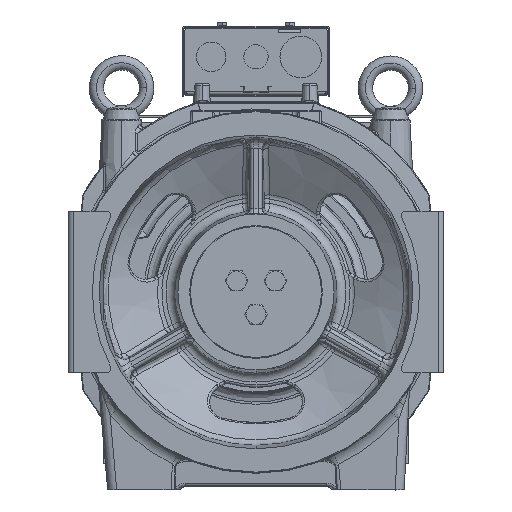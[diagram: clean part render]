
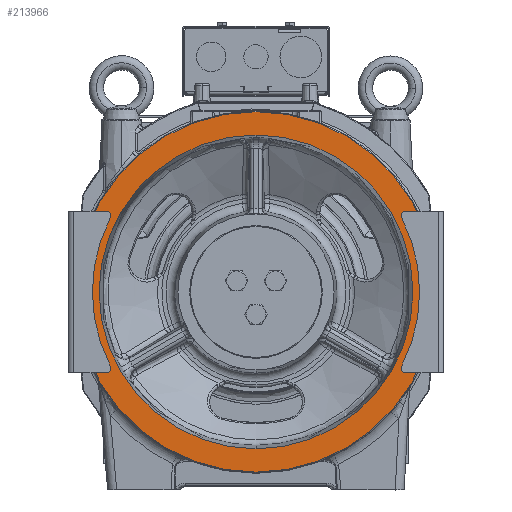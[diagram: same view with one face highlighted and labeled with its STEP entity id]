
A CAD part, top view. The second image highlights one B-rep face of the part: STEP entity #213966.
In plain terms, the highlighted planar face has unit normal (0, 0, 1) as drawn and (0, 1, 0) by its records, which use the part's own axes.
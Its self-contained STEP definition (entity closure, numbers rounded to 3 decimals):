
#194326=CARTESIAN_POINT('',(0.,86.,0.));
#194327=DIRECTION('',(0.,-1.,0.));
#194328=DIRECTION('',(0.,0.,1.));
#194329=AXIS2_PLACEMENT_3D('',#194326,#194327,#194328);
#194331=CARTESIAN_POINT('',(0.,86.,0.));
#194332=DIRECTION('',(0.,-1.,0.));
#194333=DIRECTION('',(0.,0.,-1.));
#194334=AXIS2_PLACEMENT_3D('',#194331,#194332,#194333);
#194336=CARTESIAN_POINT('',(0.,86.,0.));
#194337=DIRECTION('',(0.,1.,0.));
#194338=DIRECTION('',(0.,0.,1.));
#194339=AXIS2_PLACEMENT_3D('',#194336,#194337,#194338);
#194341=CARTESIAN_POINT('',(0.,86.,0.));
#194342=DIRECTION('',(0.,1.,0.));
#194343=DIRECTION('',(0.,0.,-1.));
#194344=AXIS2_PLACEMENT_3D('',#194341,#194342,#194343);
#204412=CARTESIAN_POINT('',(0.,86.,-175.));
#204413=CARTESIAN_POINT('',(0.,86.,175.));
#204414=VERTEX_POINT('',#204412);
#204415=VERTEX_POINT('',#204413);
#204422=CARTESIAN_POINT('',(0.,86.,201.));
#204423=CARTESIAN_POINT('',(0.,86.,-201.));
#204424=VERTEX_POINT('',#204422);
#204425=VERTEX_POINT('',#204423);
#213950=CARTESIAN_POINT('',(0.,86.,0.));
#213951=DIRECTION('',(0.,-1.,0.));
#213952=DIRECTION('',(0.,0.,1.));
#213953=AXIS2_PLACEMENT_3D('',#213950,#213951,#213952);
#213954=PLANE('',#213953);
#213955=ORIENTED_EDGE('',*,*,#213940,.T.);
#213957=ORIENTED_EDGE('',*,*,#213956,.T.);
#213958=EDGE_LOOP('',(#213955,#213957));
#213959=FACE_OUTER_BOUND('',#213958,.F.);
#213961=ORIENTED_EDGE('',*,*,#213960,.T.);
#213963=ORIENTED_EDGE('',*,*,#213962,.T.);
#213964=EDGE_LOOP('',(#213961,#213963));
#213965=FACE_BOUND('',#213964,.F.);
#213966=ADVANCED_FACE('',(#213959,#213965),#213954,.F.);
#194330=CIRCLE('',#194329,201.);
#194335=CIRCLE('',#194334,201.);
#194340=CIRCLE('',#194339,175.);
#194345=CIRCLE('',#194344,175.);
#213940=EDGE_CURVE('',#204424,#204425,#194330,.T.);
#213956=EDGE_CURVE('',#204425,#204424,#194335,.T.);
#213960=EDGE_CURVE('',#204415,#204414,#194340,.T.);
#213962=EDGE_CURVE('',#204414,#204415,#194345,.T.);
